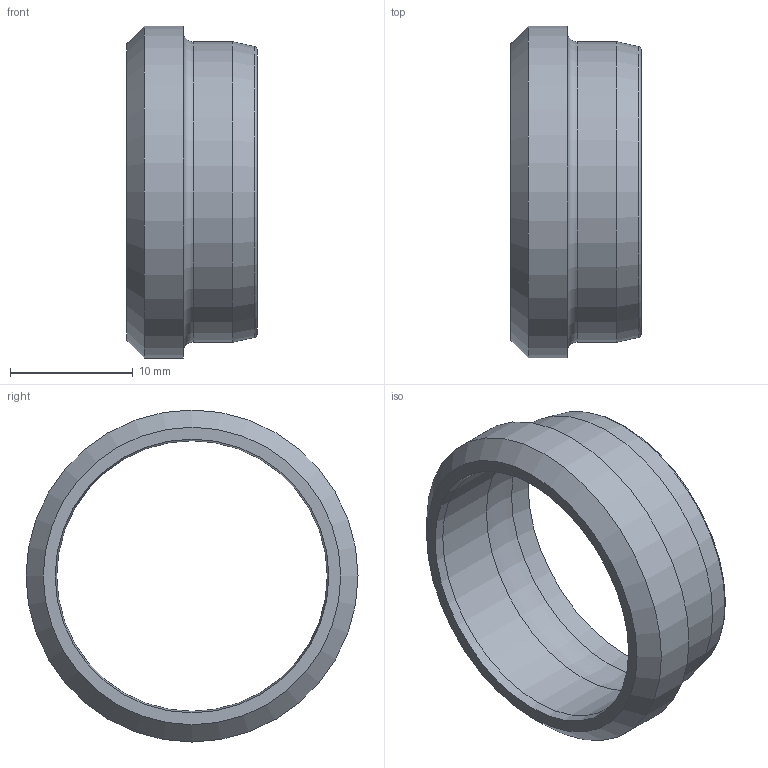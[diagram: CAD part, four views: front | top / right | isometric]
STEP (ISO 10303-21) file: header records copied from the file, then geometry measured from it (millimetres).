
FILE_DESCRIPTION( ( 'Unknown' ), '1' );
FILE_NAME( 'C:/Users/p.nanko/Desktop/3D SR/D22L.stp', 'Unknown', ( 'Peter Nanko' ), ( 'Armaturen Arndt' ), 'PSStep 14.0', 'Solid Edge ST4', ' ' );
FILE_SCHEMA( ( 'AUTOMOTIVE_DESIGN { 1 0 10303 214 1 1 1 1 }' ) );
Length unit declared in the file: millimetre
Products named in the file (1): 1001ESTERNO#0
Bounding box: 10.57 x 27 x 27 mm (x, y, z)
Volume: 1242.4 mm3; surface area: 1851.8 mm2
Topology: 1 solids, 1 shells, 15 faces, 31 edges, 20 vertices
Faces by surface type: torus 4, plane 4, cone 4, cylinder 3
Full cylindrical faces by diameter (mm): 22 x1, 24.45 x1, 27 x1
Entity records: 444 total; most frequent: DIRECTION 62, CARTESIAN_POINT 46, AXIS2_PLACEMENT_3D 31, EDGE_LOOP 30, ORIENTED_EDGE 30, FACE_OUTER_BOUND 22, STYLED_ITEM 15, PRESENTATION_STYLE_ASSIGNMENT 15
